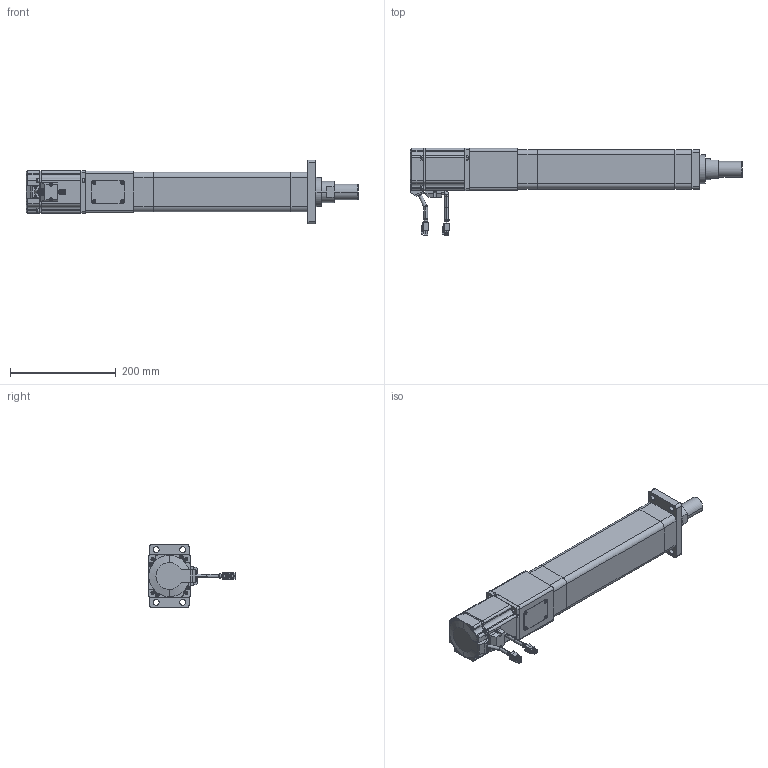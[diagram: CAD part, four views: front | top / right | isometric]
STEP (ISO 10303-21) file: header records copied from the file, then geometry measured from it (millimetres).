
FILE_DESCRIPTION (( 'STEP AP203' ), '1' );
FILE_NAME ('RKD63-D-FA-750W.STEP', '2025-01-23T10:50:22', ( '' ), ( '' ), 'SwSTEP 2.0', 'SolidWorks 2024', '' );
FILE_SCHEMA (( 'CONFIG_CONTROL_DESIGN' ));
Length unit declared in the file: millimetre
Products named in the file (12): 复件 AIME-63-HDG^复件 FESP-63-NEARCAP-PT_复件 FESP63-A_RKD63-D-FA-750W; 复件 联轴器座063-017^RKD63-D-FA-750W; Copy of 复件 前法兰063-FA^RKD63-D-FA-750W; 复件 AIME-63-HDLM^复件 FESP-63-NEARCAP-PT_复件 FESP63-A_RKD63-D-FA-750W; 复件 FESP-63-BASE-PT^复件 FESP63-A_RKD63-D-FA-750W; 复件 伺服电机80x80-750W^RKD63-D-FA-750W; 复件 联轴器座盖板063-017-1^RKD63-D-FA-750W; 复件 FESP63-A^RKD63-D-FA-750W; 复件 FESP-63-NEARCAP-PT^复件 FESP63-A_RKD63-D-FA-750W; 复件 AIME-63-HDCZ-1_1^复件 FESP-63-NEARCAP-PT_复件 FESP63-A_RKD63-D-FA-750W; 复件 FESP-63-FARCAP-PT^复件 FESP63-A_RKD63-D-FA-750W; RKD63-D-FA-750W
Assembly tree (11 placements, depth 4):
  RKD63-D-FA-750W
    复件 FESP63-A^RKD63-D-FA-750W
      复件 FESP-63-BASE-PT^复件 FESP63-A_RKD63-D-FA-750W
      复件 FESP-63-FARCAP-PT^复件 FESP63-A_RKD63-D-FA-750W
      复件 FESP-63-NEARCAP-PT^复件 FESP63-A_RKD63-D-FA-750W
        复件 AIME-63-HDLM^复件 FESP-63-NEARCAP-PT_复件 FESP63-A_RKD63-D-FA-750W
        复件 AIME-63-HDCZ-1_1^复件 FESP-63-NEARCAP-PT_复件 FESP63-A_RKD63-D-FA-750W
        复件 AIME-63-HDG^复件 FESP-63-NEARCAP-PT_复件 FESP63-A_RKD63-D-FA-750W
    复件 联轴器座063-017^RKD63-D-FA-750W
    复件 联轴器座盖板063-017-1^RKD63-D-FA-750W
    复件 伺服电机80x80-750W^RKD63-D-FA-750W
    Copy of 复件 前法兰063-FA^RKD63-D-FA-750W
Bounding box: 629.2 x 165.8 x 120 mm (x, y, z)
Volume: 2348793.4 mm3; surface area: 376187.4 mm2
Topology: 16 solids, 16 shells, 1193 faces, 3007 edges, 1924 vertices
Faces by surface type: plane 559, cylinder 429, cone 134, bspline 63, torus 8
Entity records: 37813 total; most frequent: CARTESIAN_POINT 7423, DIRECTION 6196, ORIENTED_EDGE 5954, EDGE_CURVE 2977, AXIS2_PLACEMENT_3D 2219, VERTEX_POINT 1924, VECTOR 1758, LINE 1758
